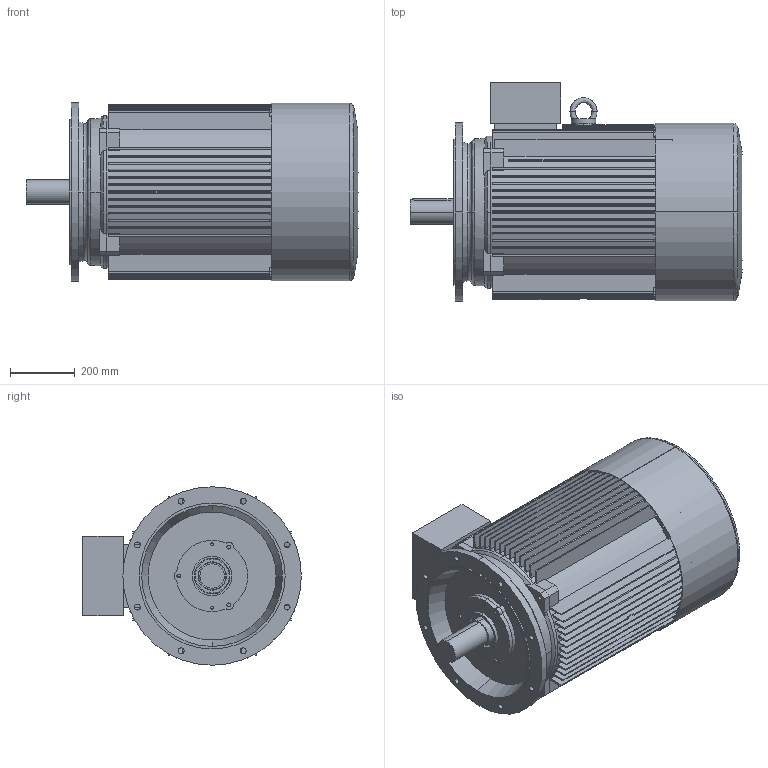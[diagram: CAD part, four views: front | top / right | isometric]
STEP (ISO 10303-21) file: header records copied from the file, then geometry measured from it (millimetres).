
FILE_DESCRIPTION (( 'STEP AP203' ), '1' );
FILE_NAME ('M3-280M-4p-FF-B5.STEP', '2019-07-16T09:32:14', ( '' ), ( '' ), 'SwSTEP 2.0', 'SolidWorks 2012', '' );
FILE_SCHEMA (( 'CONFIG_CONTROL_DESIGN' ));
Length unit declared in the file: millimetre
Products named in the file (8): Y2-280M+ｷﾎｨB5_-ｼ+､; M3-280M-4p-FF-B5; Y2-280S.M-4.6.8ﾍﾟ_-ｼ+､; Y2-280-4-ｦﾈﾁﾂ-ｩﾃ_-ｼ+､; Y2-280-4.6.8ﾀiﾍ_-ｼ+､; Ã¦Íß¦ð-Ô©ÃY2-280-4_-¼+¤; 280ﾁｧ+ﾀ_-ｼ+､; Y2-280ｦｾﾂ-ｩﾃ_-ｼ+､
Assembly tree (7 placements, depth 2):
  M3-280M-4p-FF-B5
    Y2-280ｦｾﾂ-ｩﾃ_-ｼ+､
    Ã¦Íß¦ð-Ô©ÃY2-280-4_-¼+¤
    Y2-280-4-ｦﾈﾁﾂ-ｩﾃ_-ｼ+､
    Y2-280-4.6.8ﾀiﾍ_-ｼ+､
    280ﾁｧ+ﾀ_-ｼ+､
    Y2-280M+ｷﾎｨB5_-ｼ+､
    Y2-280S.M-4.6.8ﾍﾟ_-ｼ+､
Bounding box: 1023.53 x 674 x 550 mm (x, y, z)
Volume: 35800806.9 mm3; surface area: 7009391.9 mm2
Topology: 7 solids, 7 shells, 755 faces, 2004 edges, 1325 vertices
Faces by surface type: plane 409, cylinder 287, cone 33, bspline 26
Entity records: 26327 total; most frequent: CARTESIAN_POINT 6047, DIRECTION 4163, ORIENTED_EDGE 4008, EDGE_CURVE 2004, AXIS2_PLACEMENT_3D 1505, VERTEX_POINT 1325, VECTOR 1153, LINE 1153
